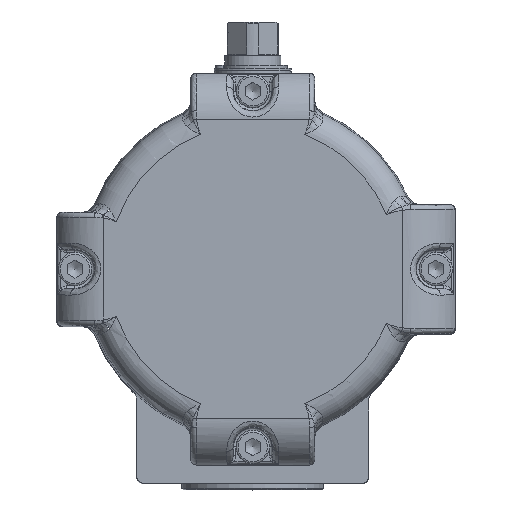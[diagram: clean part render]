
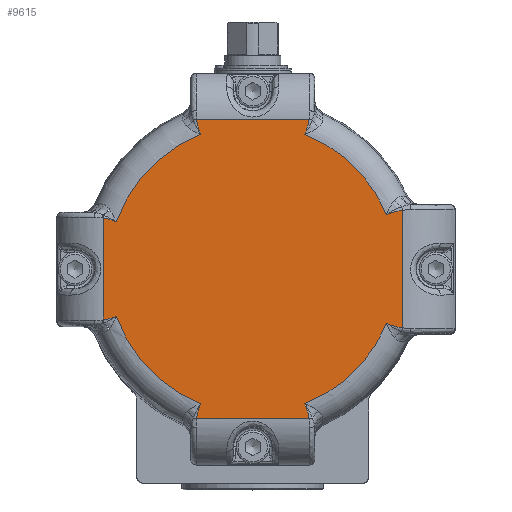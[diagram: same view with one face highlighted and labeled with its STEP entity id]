
A CAD part, top view. The second image highlights one B-rep face of the part: STEP entity #9615.
In plain terms, the highlighted planar face has unit normal (0, 0, 1).
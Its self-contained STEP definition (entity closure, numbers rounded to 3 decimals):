
#3687=CARTESIAN_POINT('',(-58.,19.774,96.5));
#3688=VERTEX_POINT('',#3687);
#3740=CARTESIAN_POINT('',(-58.,-19.774,96.5));
#3741=VERTEX_POINT('',#3740);
#3749=CARTESIAN_POINT('',(-58.,19.774,96.5));
#3750=DIRECTION('',(0.0,-1.0,0.0));
#3751=VECTOR('',#3750,39.547);
#3752=LINE('',#3749,#3751);
#3753=EDGE_CURVE('',#3688,#3741,#3752,.T.);
#4320=CARTESIAN_POINT('',(21.794,-58.0,96.5));
#4321=VERTEX_POINT('',#4320);
#4322=CARTESIAN_POINT('',(-21.794,-58.0,96.5));
#4323=VERTEX_POINT('',#4322);
#4324=CARTESIAN_POINT('',(21.794,-58.0,96.5));
#4325=DIRECTION('',(-1.0,0.0,0.0));
#4326=VECTOR('',#4325,43.589);
#4327=LINE('',#4324,#4326);
#4328=EDGE_CURVE('',#4321,#4323,#4327,.T.);
#4871=CARTESIAN_POINT('',(58.,22.804,96.5));
#4872=VERTEX_POINT('',#4871);
#4880=CARTESIAN_POINT('',(58.,-22.804,96.5));
#4881=VERTEX_POINT('',#4880);
#4882=CARTESIAN_POINT('',(58.,22.804,96.5));
#4883=DIRECTION('',(0.0,-1.0,0.0));
#4884=VECTOR('',#4883,45.607);
#4885=LINE('',#4882,#4884);
#4886=EDGE_CURVE('',#4872,#4881,#4885,.T.);
#5450=CARTESIAN_POINT('',(-21.794,58.,96.5));
#5451=VERTEX_POINT('',#5450);
#5459=CARTESIAN_POINT('',(21.794,58.,96.5));
#5460=VERTEX_POINT('',#5459);
#5461=CARTESIAN_POINT('',(21.794,58.,96.5));
#5462=DIRECTION('',(-1.0,0.0,0.0));
#5463=VECTOR('',#5462,43.589);
#5464=LINE('',#5461,#5463);
#5465=EDGE_CURVE('',#5460,#5451,#5464,.T.);
#6481=CARTESIAN_POINT('',(51.856,-21.104,96.5));
#6482=VERTEX_POINT('',#6481);
#6618=CARTESIAN_POINT('',(20.174,-52.225,96.5));
#6619=VERTEX_POINT('',#6618);
#6620=CARTESIAN_POINT('',(0.,0.,96.5));
#6621=DIRECTION('',(0.0,0.0,-1.0));
#6622=DIRECTION('',(-1.0,0.0,0.0));
#6623=AXIS2_PLACEMENT_3D('',#6620,#6621,#6622);
#6624=CIRCLE('',#6623,55.986);
#6625=EDGE_CURVE('',#6482,#6619,#6624,.T.);
#7151=CARTESIAN_POINT('',(-20.174,-52.225,96.5));
#7152=VERTEX_POINT('',#7151);
#7284=CARTESIAN_POINT('',(-52.913,-18.292,96.5));
#7285=VERTEX_POINT('',#7284);
#7286=CARTESIAN_POINT('',(0.,0.,96.5));
#7287=DIRECTION('',(0.0,0.0,-1.0));
#7288=DIRECTION('',(-1.0,0.0,0.0));
#7289=AXIS2_PLACEMENT_3D('',#7286,#7287,#7288);
#7290=CIRCLE('',#7289,55.986);
#7291=EDGE_CURVE('',#7152,#7285,#7290,.T.);
#7367=CARTESIAN_POINT('',(0.,-61.0,96.5));
#7368=DIRECTION('',(0.0,0.0,-1.0));
#7369=DIRECTION('',(-0.965,0.264,0.0));
#7370=AXIS2_PLACEMENT_3D('',#7367,#7368,#7369);
#7371=CIRCLE('',#7370,22.0);
#7372=EDGE_CURVE('',#4323,#7152,#7371,.T.);
#7735=CARTESIAN_POINT('',(-61.0,0.,96.5));
#7736=DIRECTION('',(0.0,0.0,-1.0));
#7737=DIRECTION('',(0.27,-0.963,0.0));
#7738=AXIS2_PLACEMENT_3D('',#7735,#7736,#7737);
#7739=CIRCLE('',#7738,20.);
#7740=EDGE_CURVE('',#7285,#3741,#7739,.T.);
#7788=CARTESIAN_POINT('',(-52.913,18.292,96.5));
#7789=VERTEX_POINT('',#7788);
#8095=CARTESIAN_POINT('',(-20.174,52.225,96.5));
#8096=VERTEX_POINT('',#8095);
#8097=CARTESIAN_POINT('',(0.,0.,96.5));
#8098=DIRECTION('',(0.0,0.0,-1.0));
#8099=DIRECTION('',(-1.0,0.0,0.0));
#8100=AXIS2_PLACEMENT_3D('',#8097,#8098,#8099);
#8101=CIRCLE('',#8100,55.986);
#8102=EDGE_CURVE('',#7789,#8096,#8101,.T.);
#8165=CARTESIAN_POINT('',(-61.0,0.,96.5));
#8166=DIRECTION('',(0.0,0.0,-1.0));
#8167=DIRECTION('',(0.27,0.963,0.0));
#8168=AXIS2_PLACEMENT_3D('',#8165,#8166,#8167);
#8169=CIRCLE('',#8168,20.);
#8170=EDGE_CURVE('',#3688,#7789,#8169,.T.);
#8789=CARTESIAN_POINT('',(20.174,52.225,96.5));
#8790=VERTEX_POINT('',#8789);
#8922=CARTESIAN_POINT('',(51.856,21.104,96.5));
#8923=VERTEX_POINT('',#8922);
#8924=CARTESIAN_POINT('',(0.,0.,96.5));
#8925=DIRECTION('',(0.0,0.0,-1.0));
#8926=DIRECTION('',(-1.0,0.0,0.0));
#8927=AXIS2_PLACEMENT_3D('',#8924,#8925,#8926);
#8928=CIRCLE('',#8927,55.986);
#8929=EDGE_CURVE('',#8790,#8923,#8928,.T.);
#9311=CARTESIAN_POINT('',(61.0,0.,96.5));
#9312=DIRECTION('',(0.0,0.0,-1.0));
#9313=DIRECTION('',(-0.261,0.965,0.0));
#9314=AXIS2_PLACEMENT_3D('',#9311,#9312,#9313);
#9315=CIRCLE('',#9314,23.0);
#9316=EDGE_CURVE('',#8923,#4872,#9315,.T.);
#9428=CARTESIAN_POINT('',(0.,61.,96.5));
#9429=DIRECTION('',(0.0,0.0,-1.0));
#9430=DIRECTION('',(0.965,-0.264,0.0));
#9431=AXIS2_PLACEMENT_3D('',#9428,#9429,#9430);
#9432=CIRCLE('',#9431,22.);
#9433=EDGE_CURVE('',#5460,#8790,#9432,.T.);
#9498=CARTESIAN_POINT('',(0.,61.,96.5));
#9499=DIRECTION('',(0.0,0.0,-1.0));
#9500=DIRECTION('',(-0.965,-0.264,0.0));
#9501=AXIS2_PLACEMENT_3D('',#9498,#9499,#9500);
#9502=CIRCLE('',#9501,22.0);
#9503=EDGE_CURVE('',#8096,#5451,#9502,.T.);
#9580=CARTESIAN_POINT('',(-27.993,0.,96.5));
#9581=DIRECTION('',(0.0,0.0,1.0));
#9582=DIRECTION('',(0.0,-1.0,0.0));
#9583=AXIS2_PLACEMENT_3D('',#9580,#9581,#9582);
#9584=PLANE('',#9583);
#9585=ORIENTED_EDGE('',*,*,#4328,.F.);
#9586=CARTESIAN_POINT('',(0.,-61.0,96.5));
#9587=DIRECTION('',(0.0,0.0,-1.0));
#9588=DIRECTION('',(0.965,0.264,0.0));
#9589=AXIS2_PLACEMENT_3D('',#9586,#9587,#9588);
#9590=CIRCLE('',#9589,22.);
#9591=EDGE_CURVE('',#6619,#4321,#9590,.T.);
#9592=ORIENTED_EDGE('',*,*,#9591,.F.);
#9593=ORIENTED_EDGE('',*,*,#6625,.F.);
#9594=CARTESIAN_POINT('',(61.0,0.,96.5));
#9595=DIRECTION('',(0.0,0.0,-1.0));
#9596=DIRECTION('',(-0.261,-0.965,0.0));
#9597=AXIS2_PLACEMENT_3D('',#9594,#9595,#9596);
#9598=CIRCLE('',#9597,23.0);
#9599=EDGE_CURVE('',#4881,#6482,#9598,.T.);
#9600=ORIENTED_EDGE('',*,*,#9599,.F.);
#9601=ORIENTED_EDGE('',*,*,#4886,.F.);
#9602=ORIENTED_EDGE('',*,*,#9316,.F.);
#9603=ORIENTED_EDGE('',*,*,#8929,.F.);
#9604=ORIENTED_EDGE('',*,*,#9433,.F.);
#9605=ORIENTED_EDGE('',*,*,#5465,.T.);
#9606=ORIENTED_EDGE('',*,*,#9503,.F.);
#9607=ORIENTED_EDGE('',*,*,#8102,.F.);
#9608=ORIENTED_EDGE('',*,*,#8170,.F.);
#9609=ORIENTED_EDGE('',*,*,#3753,.T.);
#9610=ORIENTED_EDGE('',*,*,#7740,.F.);
#9611=ORIENTED_EDGE('',*,*,#7291,.F.);
#9612=ORIENTED_EDGE('',*,*,#7372,.F.);
#9613=EDGE_LOOP('',(#9585,#9592,#9593,#9600,#9601,#9602,#9603,#9604,#9605,#9606,#9607,#9608,#9609,#9610,#9611,#9612));
#9614=FACE_OUTER_BOUND('',#9613,.T.);
#9615=ADVANCED_FACE('',(#9614),#9584,.T.);
